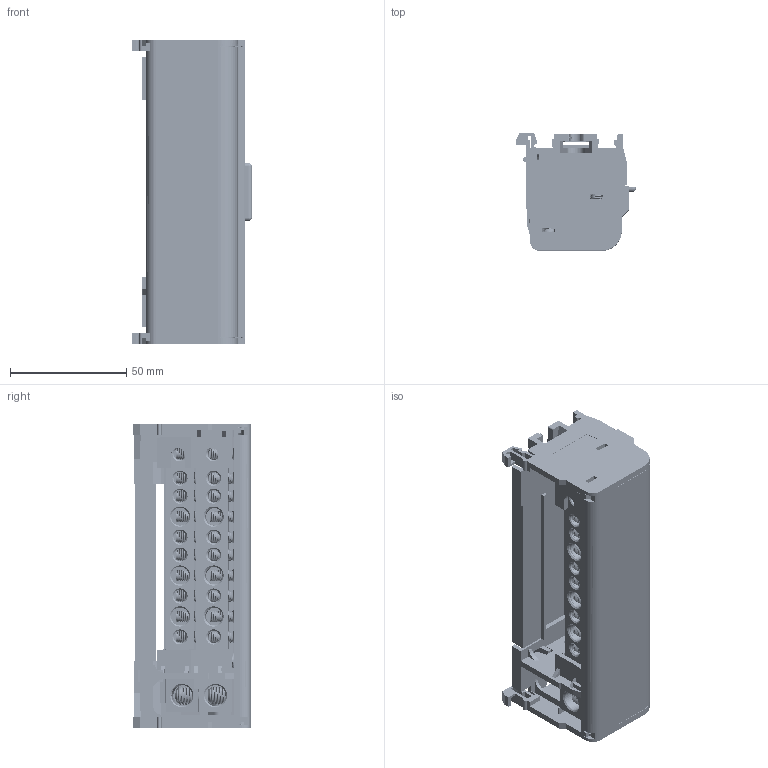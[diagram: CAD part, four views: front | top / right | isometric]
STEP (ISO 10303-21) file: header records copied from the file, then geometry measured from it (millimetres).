
FILE_DESCRIPTION(/* description */ (''),/* implementation_level */ '2;1');
FILE_NAME(/* name */ 'UK211.stp',/* time_stamp */ '2019-12-10T14:51:02+08:00',/* author */ (''),/* organization */ (''),/* preprocessor_version */ 'ST-DEVELOPER v16',/* originating_system */ 'SIEMENS PLM Software NX 10.0',/* authorisation */ '');
FILE_SCHEMA (('AUTOMOTIVE_DESIGN { 1 0 10303 214 3 1 1 1 }'));
Products named in the file (1): Admi1A6064079uyj
Bounding box: 51.5 x 50.5 x 131 mm (x, y, z)
Volume: 80297.5 mm3; surface area: 96037.7 mm2
Topology: 47 solids, 47 shells, 1757 faces, 4960 edges, 3288 vertices
Faces by surface type: plane 1239, cylinder 274, bspline 131, cone 78, torus 33, sphere 2
Full cylindrical faces by diameter (mm): 4.3 x33, 5.5 x21, 6 x2, 6.5 x30, 7.7 x9, 8 x3, 9 x2
Entity records: 171240 total; most frequent: CARTESIAN_POINT 127250, ORIENTED_EDGE 9188, DIRECTION 7846, EDGE_CURVE 4594, LINE 3182, VECTOR 3182, VERTEX_POINT 3133, AXIS2_PLACEMENT_3D 2332
